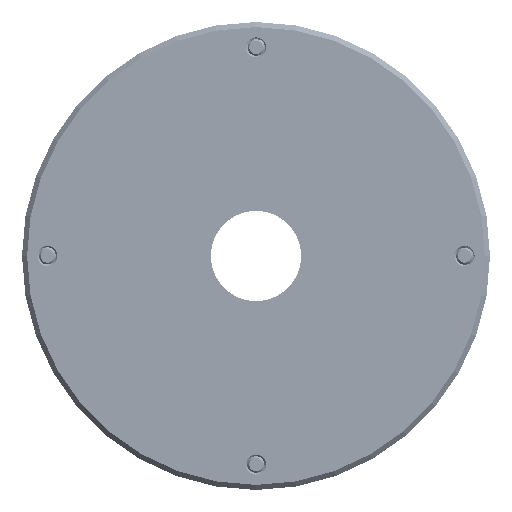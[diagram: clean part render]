
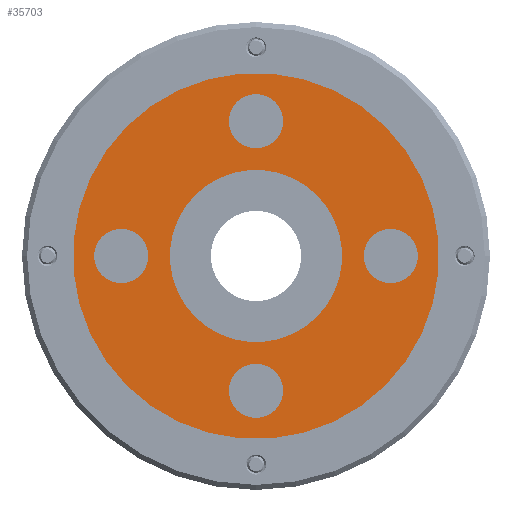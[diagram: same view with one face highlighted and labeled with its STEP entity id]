
A CAD part, front view. The second image highlights one B-rep face of the part: STEP entity #35703.
In plain terms, the highlighted planar face has unit normal (0, -1, 0).
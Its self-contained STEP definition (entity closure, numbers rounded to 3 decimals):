
#2402 = DIRECTION ( 'NONE',  ( 0., -1., 0. ) ) ;
#3268 = EDGE_LOOP ( 'NONE', ( #36323, #79486 ) ) ;
#4550 = EDGE_CURVE ( 'NONE', #100673, #33493, #109557, .T. ) ;
#4789 = EDGE_CURVE ( 'NONE', #47581, #29845, #38408, .T. ) ;
#5168 = AXIS2_PLACEMENT_3D ( 'NONE', #74672, #92775, #37728 ) ;
#6297 = DIRECTION ( 'NONE',  ( 0.707, 0., -0.707 ) ) ;
#6341 = EDGE_LOOP ( 'NONE', ( #100868, #53906 ) ) ;
#7512 = EDGE_CURVE ( 'NONE', #80526, #50055, #23779, .T. ) ;
#8455 = ORIENTED_EDGE ( 'NONE', *, *, #50722, .T. ) ;
#9195 = CARTESIAN_POINT ( 'NONE',  ( -12.944, -248.1, 112.007 ) ) ;
#9273 = EDGE_CURVE ( 'NONE', #33493, #100673, #77708, .T. ) ;
#9596 = EDGE_LOOP ( 'NONE', ( #66909, #8455 ) ) ;
#11342 = DIRECTION ( 'NONE',  ( 0., -1., 0. ) ) ;
#11704 = DIRECTION ( 'NONE',  ( 0.707, 0., -0.707 ) ) ;
#12541 = FACE_BOUND ( 'NONE', #6341, .T. ) ;
#14053 = AXIS2_PLACEMENT_3D ( 'NONE', #90200, #73230, #11704 ) ;
#14651 = CARTESIAN_POINT ( 'NONE',  ( 25.222, -248.1, 73.841 ) ) ;
#14828 = DIRECTION ( 'NONE',  ( 0., -1., 0. ) ) ;
#15876 = CIRCLE ( 'NONE', #14053, 8.001 ) ;
#16085 = ORIENTED_EDGE ( 'NONE', *, *, #7512, .F. ) ;
#19559 = CARTESIAN_POINT ( 'NONE',  ( 43.182, -248.1, 55.881 ) ) ;
#20828 = CARTESIAN_POINT ( 'NONE',  ( 25.222, -248.1, 34.09 ) ) ;
#21610 = ORIENTED_EDGE ( 'NONE', *, *, #86429, .F. ) ;
#22010 = VERTEX_POINT ( 'NONE', #37750 ) ;
#22449 = CARTESIAN_POINT ( 'NONE',  ( 7.261, -248.1, 91.802 ) ) ;
#23779 = CIRCLE ( 'NONE', #40701, 8.001 ) ;
#23946 = CARTESIAN_POINT ( 'NONE',  ( -20.187, -248.1, 79.499 ) ) ;
#25549 = ORIENTED_EDGE ( 'NONE', *, *, #100489, .F. ) ;
#26180 = DIRECTION ( 'NONE',  ( 0.707, 0., -0.707 ) ) ;
#27392 = EDGE_LOOP ( 'NONE', ( #36398, #31800 ) ) ;
#28956 = FACE_BOUND ( 'NONE', #91725, .T. ) ;
#29354 = AXIS2_PLACEMENT_3D ( 'NONE', #109027, #2402, #109622 ) ;
#29845 = VERTEX_POINT ( 'NONE', #113147 ) ;
#30592 = CARTESIAN_POINT ( 'NONE',  ( 25.222, -248.1, 73.841 ) ) ;
#31020 = AXIS2_PLACEMENT_3D ( 'NONE', #107617, #52006, #26180 ) ;
#31800 = ORIENTED_EDGE ( 'NONE', *, *, #76954, .F. ) ;
#33493 = VERTEX_POINT ( 'NONE', #75111 ) ;
#35133 = CARTESIAN_POINT ( 'NONE',  ( 59.315, -248.1, 79.499 ) ) ;
#35703 = ADVANCED_FACE ( 'NONE', ( #12541, #28956, #57615, #110985, #91629, #73506 ), #57030, .T. ) ;
#36323 = ORIENTED_EDGE ( 'NONE', *, *, #9273, .F. ) ;
#36398 = ORIENTED_EDGE ( 'NONE', *, *, #47312, .F. ) ;
#37049 = AXIS2_PLACEMENT_3D ( 'NONE', #14651, #58569, #84954 ) ;
#37728 = DIRECTION ( 'NONE',  ( 0.707, 0., -0.707 ) ) ;
#37750 = CARTESIAN_POINT ( 'NONE',  ( 63.388, -248.1, 35.675 ) ) ;
#38408 = CIRCLE ( 'NONE', #109805, 8.001 ) ;
#40701 = AXIS2_PLACEMENT_3D ( 'NONE', #56930, #75144, #73404 ) ;
#40904 = CARTESIAN_POINT ( 'NONE',  ( 25.222, -248.1, 113.592 ) ) ;
#42052 = DIRECTION ( 'NONE',  ( 0., -1., 0. ) ) ;
#42895 = DIRECTION ( 'NONE',  ( 0.707, 0., -0.707 ) ) ;
#43840 = AXIS2_PLACEMENT_3D ( 'NONE', #104412, #59891, #95610 ) ;
#44092 = CARTESIAN_POINT ( 'NONE',  ( 64.973, -248.1, 73.841 ) ) ;
#47312 = EDGE_CURVE ( 'NONE', #102130, #70110, #107573, .T. ) ;
#47581 = VERTEX_POINT ( 'NONE', #100874 ) ;
#49975 = CIRCLE ( 'NONE', #29354, 53.975 ) ;
#50055 = VERTEX_POINT ( 'NONE', #95469 ) ;
#50722 = EDGE_CURVE ( 'NONE', #53953, #22010, #49975, .T. ) ;
#52006 = DIRECTION ( 'NONE',  ( 0., -1., 0. ) ) ;
#52786 = CIRCLE ( 'NONE', #69596, 53.975 ) ;
#53906 = ORIENTED_EDGE ( 'NONE', *, *, #104371, .F. ) ;
#53953 = VERTEX_POINT ( 'NONE', #9195 ) ;
#56930 = CARTESIAN_POINT ( 'NONE',  ( -14.529, -248.1, 73.841 ) ) ;
#57030 = PLANE ( 'NONE',  #5168 ) ;
#57615 = FACE_BOUND ( 'NONE', #3268, .T. ) ;
#58452 = DIRECTION ( 'NONE',  ( 0.707, 0., -0.707 ) ) ;
#58569 = DIRECTION ( 'NONE',  ( 0., -1., 0. ) ) ;
#59581 = CIRCLE ( 'NONE', #37049, 25.4 ) ;
#59891 = DIRECTION ( 'NONE',  ( 0., -1., 0. ) ) ;
#61128 = AXIS2_PLACEMENT_3D ( 'NONE', #84834, #42052, #6297 ) ;
#66909 = ORIENTED_EDGE ( 'NONE', *, *, #81942, .T. ) ;
#66963 = DIRECTION ( 'NONE',  ( 0.707, 0., -0.707 ) ) ;
#69259 = VERTEX_POINT ( 'NONE', #22449 ) ;
#69596 = AXIS2_PLACEMENT_3D ( 'NONE', #30592, #11342, #66963 ) ;
#70110 = VERTEX_POINT ( 'NONE', #35133 ) ;
#71607 = DIRECTION ( 'NONE',  ( 0., -1., 0. ) ) ;
#72545 = VERTEX_POINT ( 'NONE', #19559 ) ;
#73230 = DIRECTION ( 'NONE',  ( 0., -1., 0. ) ) ;
#73404 = DIRECTION ( 'NONE',  ( 0.707, 0., -0.707 ) ) ;
#73506 = FACE_OUTER_BOUND ( 'NONE', #9596, .T. ) ;
#74019 = EDGE_CURVE ( 'NONE', #50055, #80526, #101741, .T. ) ;
#74057 = EDGE_LOOP ( 'NONE', ( #21610, #25549 ) ) ;
#74672 = CARTESIAN_POINT ( 'NONE',  ( 25.222, -248.1, 73.841 ) ) ;
#75111 = CARTESIAN_POINT ( 'NONE',  ( 30.88, -248.1, 28.433 ) ) ;
#75144 = DIRECTION ( 'NONE',  ( 0., -1., 0. ) ) ;
#76075 = CARTESIAN_POINT ( 'NONE',  ( 70.631, -248.1, 68.184 ) ) ;
#76085 = DIRECTION ( 'NONE',  ( 0., -1., 0. ) ) ;
#76954 = EDGE_CURVE ( 'NONE', #70110, #102130, #98362, .T. ) ;
#77672 = AXIS2_PLACEMENT_3D ( 'NONE', #44092, #14828, #79795 ) ;
#77708 = CIRCLE ( 'NONE', #111437, 8.001 ) ;
#79486 = ORIENTED_EDGE ( 'NONE', *, *, #4550, .F. ) ;
#79795 = DIRECTION ( 'NONE',  ( 0.707, 0., -0.707 ) ) ;
#80526 = VERTEX_POINT ( 'NONE', #23946 ) ;
#81942 = EDGE_CURVE ( 'NONE', #22010, #53953, #52786, .T. ) ;
#84834 = CARTESIAN_POINT ( 'NONE',  ( 25.222, -248.1, 34.09 ) ) ;
#84954 = DIRECTION ( 'NONE',  ( 0.707, 0., -0.707 ) ) ;
#86284 = DIRECTION ( 'NONE',  ( 0., -1., 0. ) ) ;
#86429 = EDGE_CURVE ( 'NONE', #69259, #72545, #90533, .T. ) ;
#90185 = ORIENTED_EDGE ( 'NONE', *, *, #74019, .F. ) ;
#90200 = CARTESIAN_POINT ( 'NONE',  ( 25.222, -248.1, 113.592 ) ) ;
#90533 = CIRCLE ( 'NONE', #43840, 25.4 ) ;
#91629 = FACE_BOUND ( 'NONE', #74057, .T. ) ;
#91725 = EDGE_LOOP ( 'NONE', ( #90185, #16085 ) ) ;
#92775 = DIRECTION ( 'NONE',  ( 0., -1., 0. ) ) ;
#95469 = CARTESIAN_POINT ( 'NONE',  ( -8.871, -248.1, 68.184 ) ) ;
#95610 = DIRECTION ( 'NONE',  ( 0.707, 0., -0.707 ) ) ;
#97753 = CARTESIAN_POINT ( 'NONE',  ( 19.564, -248.1, 39.748 ) ) ;
#98362 = CIRCLE ( 'NONE', #31020, 8.001 ) ;
#99888 = AXIS2_PLACEMENT_3D ( 'NONE', #108508, #71607, #107348 ) ;
#100489 = EDGE_CURVE ( 'NONE', #72545, #69259, #59581, .T. ) ;
#100673 = VERTEX_POINT ( 'NONE', #97753 ) ;
#100868 = ORIENTED_EDGE ( 'NONE', *, *, #4789, .F. ) ;
#100874 = CARTESIAN_POINT ( 'NONE',  ( 30.88, -248.1, 107.935 ) ) ;
#101741 = CIRCLE ( 'NONE', #99888, 8.001 ) ;
#102130 = VERTEX_POINT ( 'NONE', #76075 ) ;
#104371 = EDGE_CURVE ( 'NONE', #29845, #47581, #15876, .T. ) ;
#104412 = CARTESIAN_POINT ( 'NONE',  ( 25.222, -248.1, 73.841 ) ) ;
#107348 = DIRECTION ( 'NONE',  ( 0.707, 0., -0.707 ) ) ;
#107573 = CIRCLE ( 'NONE', #77672, 8.001 ) ;
#107617 = CARTESIAN_POINT ( 'NONE',  ( 64.973, -248.1, 73.841 ) ) ;
#108508 = CARTESIAN_POINT ( 'NONE',  ( -14.529, -248.1, 73.841 ) ) ;
#109027 = CARTESIAN_POINT ( 'NONE',  ( 25.222, -248.1, 73.841 ) ) ;
#109557 = CIRCLE ( 'NONE', #61128, 8.001 ) ;
#109622 = DIRECTION ( 'NONE',  ( 0.707, 0., -0.707 ) ) ;
#109805 = AXIS2_PLACEMENT_3D ( 'NONE', #40904, #76085, #58452 ) ;
#110985 = FACE_BOUND ( 'NONE', #27392, .T. ) ;
#111437 = AXIS2_PLACEMENT_3D ( 'NONE', #20828, #86284, #42895 ) ;
#113147 = CARTESIAN_POINT ( 'NONE',  ( 19.564, -248.1, 119.25 ) ) ;
